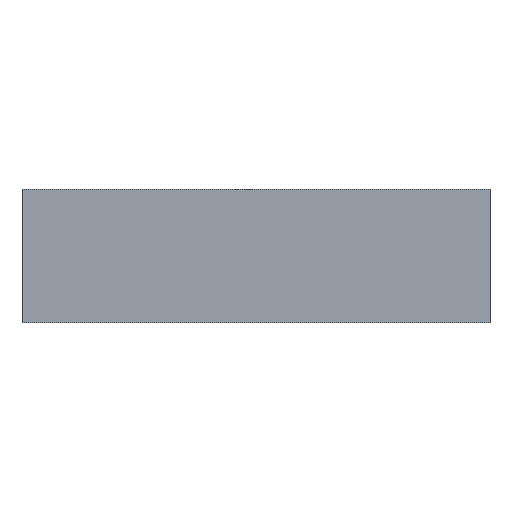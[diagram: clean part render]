
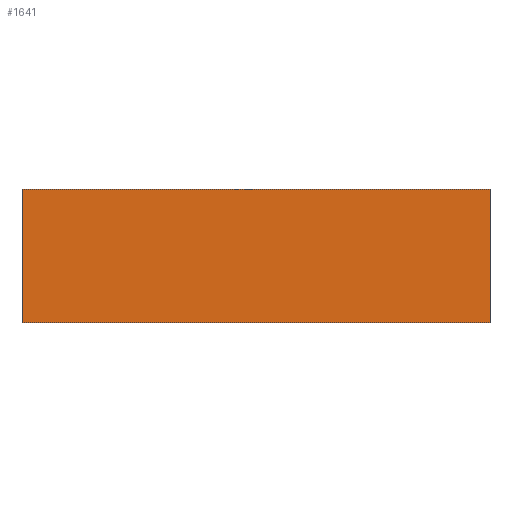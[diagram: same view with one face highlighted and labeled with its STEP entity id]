
A CAD part, top view. The second image highlights one B-rep face of the part: STEP entity #1641.
In plain terms, the highlighted planar face has unit normal (0, 0, 1).
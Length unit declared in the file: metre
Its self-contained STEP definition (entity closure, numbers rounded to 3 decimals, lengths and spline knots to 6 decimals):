
#409=ORIENTED_EDGE('',*,*,#568,.F.);
#410=ORIENTED_EDGE('',*,*,#802,.T.);
#411=ORIENTED_EDGE('',*,*,#792,.F.);
#412=ORIENTED_EDGE('',*,*,#803,.F.);
#568=EDGE_CURVE('',#804,#806,#963,.T.);
#792=EDGE_CURVE('',#960,#961,#1133,.T.);
#802=EDGE_CURVE('',#804,#961,#1143,.T.);
#803=EDGE_CURVE('',#806,#960,#1144,.T.);
#804=VERTEX_POINT('',#2251);
#806=VERTEX_POINT('',#2254);
#960=VERTEX_POINT('',#2702);
#961=VERTEX_POINT('',#2704);
#963=LINE('',#2253,#1146);
#1133=LINE('',#2703,#1316);
#1143=LINE('',#2720,#1326);
#1144=LINE('',#2721,#1327);
#1146=VECTOR('',#1798,1.);
#1316=VECTOR('',#2218,1.);
#1326=VECTOR('',#2240,1.);
#1327=VECTOR('',#2241,1.);
#1407=EDGE_LOOP('',(#409,#410,#411,#412));
#1498=FACE_BOUND('',#1407,.T.);
#1560=PLANE('',#1789);
#1641=ADVANCED_FACE('',(#1498),#1560,.T.);
#1789=AXIS2_PLACEMENT_3D('',#2719,#2238,#2239);
#1798=DIRECTION('',(0.,1.,0.));
#2218=DIRECTION('',(0.,-1.,0.));
#2238=DIRECTION('',(0.,0.,1.));
#2239=DIRECTION('',(1.,0.,0.));
#2240=DIRECTION('',(1.,0.,0.));
#2241=DIRECTION('',(1.,0.,0.));
#2251=CARTESIAN_POINT('',(-0.0889,-0.0254,0.0254));
#2253=CARTESIAN_POINT('',(-0.0889,-0.0635,0.0254));
#2254=CARTESIAN_POINT('',(-0.0889,0.0254,0.0254));
#2702=CARTESIAN_POINT('',(0.0889,0.0254,0.0254));
#2703=CARTESIAN_POINT('',(0.0889,0.,0.0254));
#2704=CARTESIAN_POINT('',(0.0889,-0.0254,0.0254));
#2719=CARTESIAN_POINT('',(-0.1778,-0.0635,0.0254));
#2720=CARTESIAN_POINT('',(0.,-0.0254,0.0254));
#2721=CARTESIAN_POINT('',(-0.1778,0.0254,0.0254));
